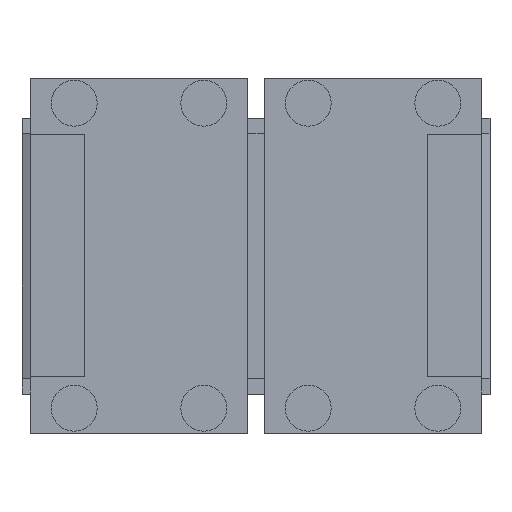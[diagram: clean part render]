
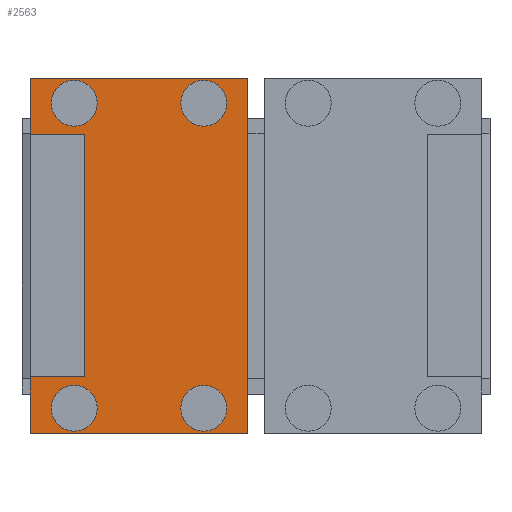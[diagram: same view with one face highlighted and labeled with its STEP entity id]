
A CAD part, top view. The second image highlights one B-rep face of the part: STEP entity #2563.
In plain terms, the highlighted planar face has unit normal (0, 0, 1).
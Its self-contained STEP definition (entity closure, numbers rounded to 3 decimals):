
#17 = CARTESIAN_POINT ( 'NONE',  ( -2., -42.5, 150. ) ) ;
#41 = VERTEX_POINT ( 'NONE', #5786 ) ;
#124 = ORIENTED_EDGE ( 'NONE', *, *, #6180, .F. ) ;
#231 = EDGE_CURVE ( 'NONE', #3397, #3866, #5421, .T. ) ;
#281 = VECTOR ( 'NONE', #3934, 1000. ) ;
#341 = CARTESIAN_POINT ( 'NONE',  ( -2., -42.5, 150. ) ) ;
#404 = ORIENTED_EDGE ( 'NONE', *, *, #3305, .F. ) ;
#416 = CARTESIAN_POINT ( 'NONE',  ( -38., 36.5, 150. ) ) ;
#444 = ORIENTED_EDGE ( 'NONE', *, *, #5067, .F. ) ;
#447 = DIRECTION ( 'NONE',  ( -1., 0., 0. ) ) ;
#448 = VECTOR ( 'NONE', #3669, 1000. ) ;
#450 = FACE_BOUND ( 'NONE', #1439, .T. ) ;
#620 = VERTEX_POINT ( 'NONE', #416 ) ;
#653 = EDGE_CURVE ( 'NONE', #5387, #4029, #1845, .T. ) ;
#681 = VERTEX_POINT ( 'NONE', #1609 ) ;
#800 = VERTEX_POINT ( 'NONE', #4103 ) ;
#801 = DIRECTION ( 'NONE',  ( -1., 0., 0. ) ) ;
#808 = DIRECTION ( 'NONE',  ( 1., 0., 0. ) ) ;
#877 = DIRECTION ( 'NONE',  ( 0., 1., 0. ) ) ;
#946 = EDGE_CURVE ( 'NONE', #1799, #5216, #1818, .T. ) ;
#953 = VERTEX_POINT ( 'NONE', #5128 ) ;
#975 = DIRECTION ( 'NONE',  ( -1., 0., 0. ) ) ;
#1004 = CARTESIAN_POINT ( 'NONE',  ( -2., 42.5, 150. ) ) ;
#1044 = CARTESIAN_POINT ( 'NONE',  ( -43.5, -36.5, 150. ) ) ;
#1054 = CARTESIAN_POINT ( 'NONE',  ( -38., -36.5, 150. ) ) ;
#1077 = VECTOR ( 'NONE', #6022, 1000. ) ;
#1094 = VECTOR ( 'NONE', #6080, 1000. ) ;
#1096 = CARTESIAN_POINT ( 'NONE',  ( -12.5, 36.5, 150. ) ) ;
#1176 = ORIENTED_EDGE ( 'NONE', *, *, #1270, .F. ) ;
#1183 = EDGE_CURVE ( 'NONE', #5216, #1799, #2040, .T. ) ;
#1270 = EDGE_CURVE ( 'NONE', #953, #5438, #6052, .T. ) ;
#1352 = AXIS2_PLACEMENT_3D ( 'NONE', #5540, #2476, #3103 ) ;
#1364 = DIRECTION ( 'NONE',  ( 0., 0., 1. ) ) ;
#1400 = CARTESIAN_POINT ( 'NONE',  ( -54., -29., 150. ) ) ;
#1439 = EDGE_LOOP ( 'NONE', ( #3171, #444 ) ) ;
#1456 = DIRECTION ( 'NONE',  ( -1., 0., 0. ) ) ;
#1464 = VECTOR ( 'NONE', #877, 1000. ) ;
#1609 = CARTESIAN_POINT ( 'NONE',  ( -54., 29., 150. ) ) ;
#1632 = DIRECTION ( 'NONE',  ( -1., 0., 0. ) ) ;
#1739 = EDGE_LOOP ( 'NONE', ( #1837, #1798 ) ) ;
#1744 = ORIENTED_EDGE ( 'NONE', *, *, #3951, .T. ) ;
#1746 = CARTESIAN_POINT ( 'NONE',  ( -2., -42.5, 150. ) ) ;
#1780 = VECTOR ( 'NONE', #4208, 1000. ) ;
#1798 = ORIENTED_EDGE ( 'NONE', *, *, #4868, .F. ) ;
#1799 = VERTEX_POINT ( 'NONE', #3724 ) ;
#1818 = CIRCLE ( 'NONE', #6356, 5.5 ) ;
#1837 = ORIENTED_EDGE ( 'NONE', *, *, #653, .F. ) ;
#1845 = CIRCLE ( 'NONE', #2691, 5.5 ) ;
#1941 = ORIENTED_EDGE ( 'NONE', *, *, #4098, .T. ) ;
#1981 = FACE_BOUND ( 'NONE', #3448, .T. ) ;
#1982 = CARTESIAN_POINT ( 'NONE',  ( -41., 29., 150. ) ) ;
#1986 = CARTESIAN_POINT ( 'NONE',  ( -2., 42.5, 150. ) ) ;
#2013 = DIRECTION ( 'NONE',  ( 0., 0., 1. ) ) ;
#2040 = CIRCLE ( 'NONE', #5512, 5.5 ) ;
#2097 = CIRCLE ( 'NONE', #3686, 5.5 ) ;
#2112 = FACE_OUTER_BOUND ( 'NONE', #4776, .T. ) ;
#2201 = CIRCLE ( 'NONE', #6212, 5.5 ) ;
#2459 = CARTESIAN_POINT ( 'NONE',  ( -41., -29., 150. ) ) ;
#2476 = DIRECTION ( 'NONE',  ( 0., 0., -1. ) ) ;
#2540 = LINE ( 'NONE', #17, #4112 ) ;
#2563 = ADVANCED_FACE ( 'NONE', ( #2112, #1981, #450, #6048, #5609 ), #4025, .F. ) ;
#2649 = CARTESIAN_POINT ( 'NONE',  ( -54., -29., 150. ) ) ;
#2691 = AXIS2_PLACEMENT_3D ( 'NONE', #1044, #2013, #5606 ) ;
#2851 = VECTOR ( 'NONE', #808, 1000. ) ;
#2926 = CARTESIAN_POINT ( 'NONE',  ( -43.5, -36.5, 150. ) ) ;
#2931 = EDGE_CURVE ( 'NONE', #3689, #3493, #5408, .T. ) ;
#2976 = CARTESIAN_POINT ( 'NONE',  ( -41., -29., 150. ) ) ;
#2996 = VERTEX_POINT ( 'NONE', #1004 ) ;
#3052 = CARTESIAN_POINT ( 'NONE',  ( -7., 36.5, 150. ) ) ;
#3103 = DIRECTION ( 'NONE',  ( 0., 1., 0. ) ) ;
#3171 = ORIENTED_EDGE ( 'NONE', *, *, #4386, .F. ) ;
#3305 = EDGE_CURVE ( 'NONE', #5438, #953, #6369, .T. ) ;
#3352 = DIRECTION ( 'NONE',  ( -1., 0., 0. ) ) ;
#3372 = CARTESIAN_POINT ( 'NONE',  ( -54., -42.5, 150. ) ) ;
#3397 = VERTEX_POINT ( 'NONE', #2459 ) ;
#3420 = AXIS2_PLACEMENT_3D ( 'NONE', #5866, #6429, #3352 ) ;
#3448 = EDGE_LOOP ( 'NONE', ( #1176, #404 ) ) ;
#3493 = VERTEX_POINT ( 'NONE', #2649 ) ;
#3534 = ORIENTED_EDGE ( 'NONE', *, *, #1183, .F. ) ;
#3551 = EDGE_LOOP ( 'NONE', ( #4684, #3534 ) ) ;
#3618 = LINE ( 'NONE', #5233, #1780 ) ;
#3634 = LINE ( 'NONE', #5645, #1094 ) ;
#3669 = DIRECTION ( 'NONE',  ( 0., 1., 0. ) ) ;
#3686 = AXIS2_PLACEMENT_3D ( 'NONE', #2926, #3952, #4938 ) ;
#3689 = VERTEX_POINT ( 'NONE', #3372 ) ;
#3724 = CARTESIAN_POINT ( 'NONE',  ( -18., 36.5, 150. ) ) ;
#3766 = ORIENTED_EDGE ( 'NONE', *, *, #2931, .F. ) ;
#3789 = AXIS2_PLACEMENT_3D ( 'NONE', #5863, #1364, #4834 ) ;
#3837 = EDGE_CURVE ( 'NONE', #681, #41, #3634, .T. ) ;
#3866 = VERTEX_POINT ( 'NONE', #1982 ) ;
#3934 = DIRECTION ( 'NONE',  ( 0., 1., 0. ) ) ;
#3951 = EDGE_CURVE ( 'NONE', #2996, #41, #5515, .T. ) ;
#3952 = DIRECTION ( 'NONE',  ( 0., 0., 1. ) ) ;
#3959 = DIRECTION ( 'NONE',  ( 0., 0., 1. ) ) ;
#3970 = DIRECTION ( 'NONE',  ( 0., 0., 1. ) ) ;
#4025 = PLANE ( 'NONE',  #1352 ) ;
#4029 = VERTEX_POINT ( 'NONE', #1054 ) ;
#4098 = EDGE_CURVE ( 'NONE', #4672, #2996, #4655, .T. ) ;
#4103 = CARTESIAN_POINT ( 'NONE',  ( -49., 36.5, 150. ) ) ;
#4112 = VECTOR ( 'NONE', #975, 1000. ) ;
#4140 = DIRECTION ( 'NONE',  ( 0., 0., 1. ) ) ;
#4208 = DIRECTION ( 'NONE',  ( 1., 0., 0. ) ) ;
#4340 = CARTESIAN_POINT ( 'NONE',  ( -12.5, 36.5, 150. ) ) ;
#4386 = EDGE_CURVE ( 'NONE', #800, #620, #2201, .T. ) ;
#4539 = ORIENTED_EDGE ( 'NONE', *, *, #4940, .T. ) ;
#4568 = AXIS2_PLACEMENT_3D ( 'NONE', #5587, #3970, #1456 ) ;
#4655 = LINE ( 'NONE', #1746, #448 ) ;
#4672 = VERTEX_POINT ( 'NONE', #341 ) ;
#4684 = ORIENTED_EDGE ( 'NONE', *, *, #946, .F. ) ;
#4776 = EDGE_LOOP ( 'NONE', ( #6007, #4539, #5982, #124, #3766, #6240, #1941, #1744 ) ) ;
#4797 = CARTESIAN_POINT ( 'NONE',  ( -7., -36.5, 150. ) ) ;
#4834 = DIRECTION ( 'NONE',  ( -1., 0., 0. ) ) ;
#4868 = EDGE_CURVE ( 'NONE', #4029, #5387, #2097, .T. ) ;
#4938 = DIRECTION ( 'NONE',  ( -1., 0., 0. ) ) ;
#4940 = EDGE_CURVE ( 'NONE', #681, #3866, #3618, .T. ) ;
#5067 = EDGE_CURVE ( 'NONE', #620, #800, #5579, .T. ) ;
#5128 = CARTESIAN_POINT ( 'NONE',  ( -18., -36.5, 150. ) ) ;
#5216 = VERTEX_POINT ( 'NONE', #3052 ) ;
#5233 = CARTESIAN_POINT ( 'NONE',  ( -54., 29., 150. ) ) ;
#5387 = VERTEX_POINT ( 'NONE', #6156 ) ;
#5408 = LINE ( 'NONE', #5870, #1464 ) ;
#5421 = LINE ( 'NONE', #2976, #281 ) ;
#5438 = VERTEX_POINT ( 'NONE', #4797 ) ;
#5512 = AXIS2_PLACEMENT_3D ( 'NONE', #4340, #6389, #801 ) ;
#5515 = LINE ( 'NONE', #1986, #1077 ) ;
#5540 = CARTESIAN_POINT ( 'NONE',  ( -2., -42.5, 150. ) ) ;
#5579 = CIRCLE ( 'NONE', #3789, 5.5 ) ;
#5587 = CARTESIAN_POINT ( 'NONE',  ( -12.5, -36.5, 150. ) ) ;
#5606 = DIRECTION ( 'NONE',  ( -1., 0., 0. ) ) ;
#5607 = CARTESIAN_POINT ( 'NONE',  ( -43.5, 36.5, 150. ) ) ;
#5609 = FACE_BOUND ( 'NONE', #1739, .T. ) ;
#5645 = CARTESIAN_POINT ( 'NONE',  ( -54., -42.5, 150. ) ) ;
#5786 = CARTESIAN_POINT ( 'NONE',  ( -54., 42.5, 150. ) ) ;
#5863 = CARTESIAN_POINT ( 'NONE',  ( -43.5, 36.5, 150. ) ) ;
#5866 = CARTESIAN_POINT ( 'NONE',  ( -12.5, -36.5, 150. ) ) ;
#5870 = CARTESIAN_POINT ( 'NONE',  ( -54., -42.5, 150. ) ) ;
#5931 = EDGE_CURVE ( 'NONE', #4672, #3689, #2540, .T. ) ;
#5982 = ORIENTED_EDGE ( 'NONE', *, *, #231, .F. ) ;
#6007 = ORIENTED_EDGE ( 'NONE', *, *, #3837, .F. ) ;
#6022 = DIRECTION ( 'NONE',  ( -1., 0., 0. ) ) ;
#6048 = FACE_BOUND ( 'NONE', #3551, .T. ) ;
#6052 = CIRCLE ( 'NONE', #4568, 5.5 ) ;
#6080 = DIRECTION ( 'NONE',  ( 0., 1., 0. ) ) ;
#6156 = CARTESIAN_POINT ( 'NONE',  ( -49., -36.5, 150. ) ) ;
#6180 = EDGE_CURVE ( 'NONE', #3493, #3397, #6363, .T. ) ;
#6212 = AXIS2_PLACEMENT_3D ( 'NONE', #5607, #3959, #447 ) ;
#6240 = ORIENTED_EDGE ( 'NONE', *, *, #5931, .F. ) ;
#6356 = AXIS2_PLACEMENT_3D ( 'NONE', #1096, #4140, #1632 ) ;
#6363 = LINE ( 'NONE', #1400, #2851 ) ;
#6369 = CIRCLE ( 'NONE', #3420, 5.5 ) ;
#6389 = DIRECTION ( 'NONE',  ( 0., 0., 1. ) ) ;
#6429 = DIRECTION ( 'NONE',  ( 0., 0., 1. ) ) ;
